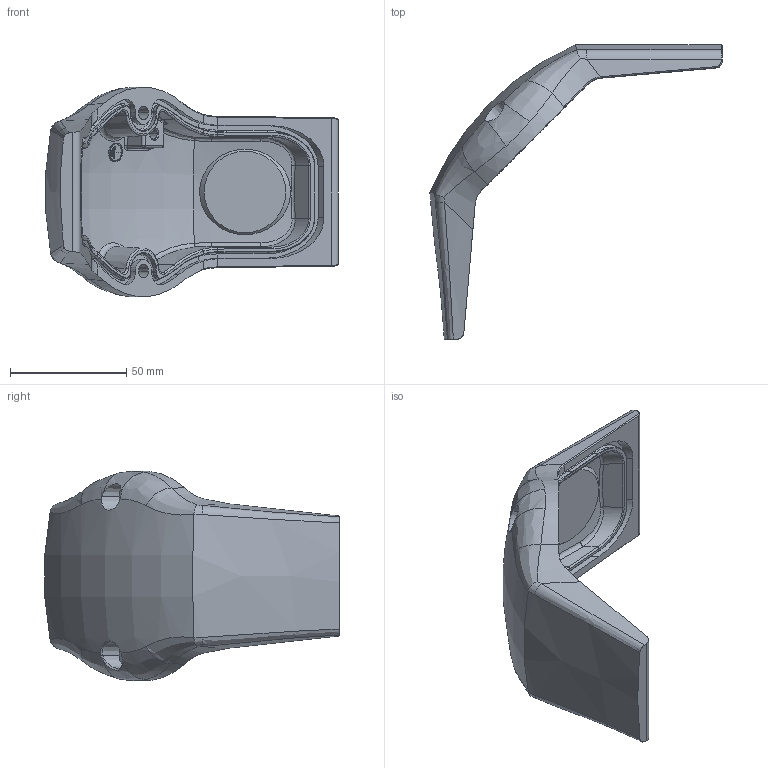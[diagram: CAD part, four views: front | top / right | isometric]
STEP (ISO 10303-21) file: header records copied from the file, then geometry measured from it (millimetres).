
FILE_DESCRIPTION (( 'STEP AP203' ), '1' );
FILE_NAME ('s1mrcrek.STEP', '2015-11-10T21:52:41', ( '' ), ( '' ), 'SwSTEP 2.0', 'SolidWorks 2014', '' );
FILE_SCHEMA (( 'CONFIG_CONTROL_DESIGN' ));
Length unit declared in the file: millimetre
Products named in the file (2): s1mrcrek; 89129051
Assembly tree (1 placements, depth 2):
  s1mrcrek
    89129051
Bounding box: 125.59 x 126.42 x 89.88 mm (x, y, z)
Volume: 101735.7 mm3; surface area: 41390.2 mm2
Topology: 1 solids, 1 shells, 374 faces, 926 edges, 555 vertices
Faces by surface type: bspline 138, cylinder 105, plane 56, torus 47, cone 25, sphere 3
Entity records: 22685 total; most frequent: CARTESIAN_POINT 14817, ORIENTED_EDGE 1838, DIRECTION 1357, EDGE_CURVE 919, AXIS2_PLACEMENT_3D 574, VERTEX_POINT 554, EDGE_LOOP 385, ADVANCED_FACE 374
